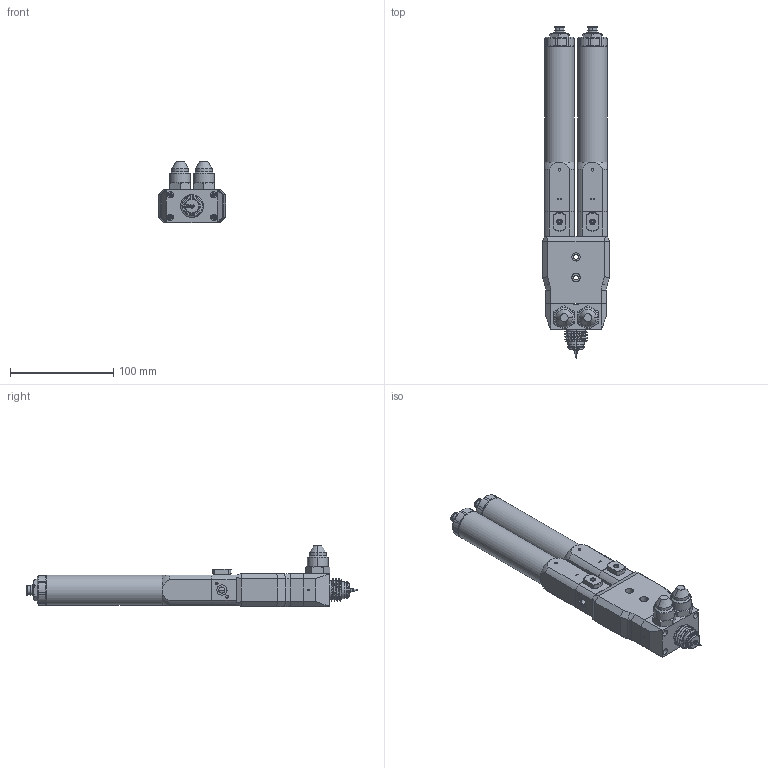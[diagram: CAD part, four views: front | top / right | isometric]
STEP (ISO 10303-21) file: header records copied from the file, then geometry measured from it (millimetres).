
FILE_DESCRIPTION (( 'STEP AP214' ), '1' );
FILE_NAME ('PDPM-500-150CB.STEP', '2024-10-11T12:16:04', ( '' ), ( '' ), 'SwSTEP 2.0', 'SolidWorks 2024', '' );
FILE_SCHEMA (( 'AUTOMOTIVE_DESIGN' ));
Length unit declared in the file: millimetre
Products named in the file (1): PDPM-500-150CB
Bounding box: 65 x 322 x 59.3 mm (x, y, z)
Volume: 465716.3 mm3; surface area: 104347.2 mm2
Topology: 13 solids, 13 shells, 1084 faces, 2602 edges, 1628 vertices
Faces by surface type: plane 428, cylinder 400, cone 227, torus 12, bspline 9, sphere 8
Full cylindrical faces by diameter (mm): 29 x2
Entity records: 38421 total; most frequent: CARTESIAN_POINT 13459, DIRECTION 5177, ORIENTED_EDGE 5136, EDGE_CURVE 2568, AXIS2_PLACEMENT_3D 2062, VERTEX_POINT 1628, EDGE_LOOP 1240, FACE_OUTER_BOUND 1086
